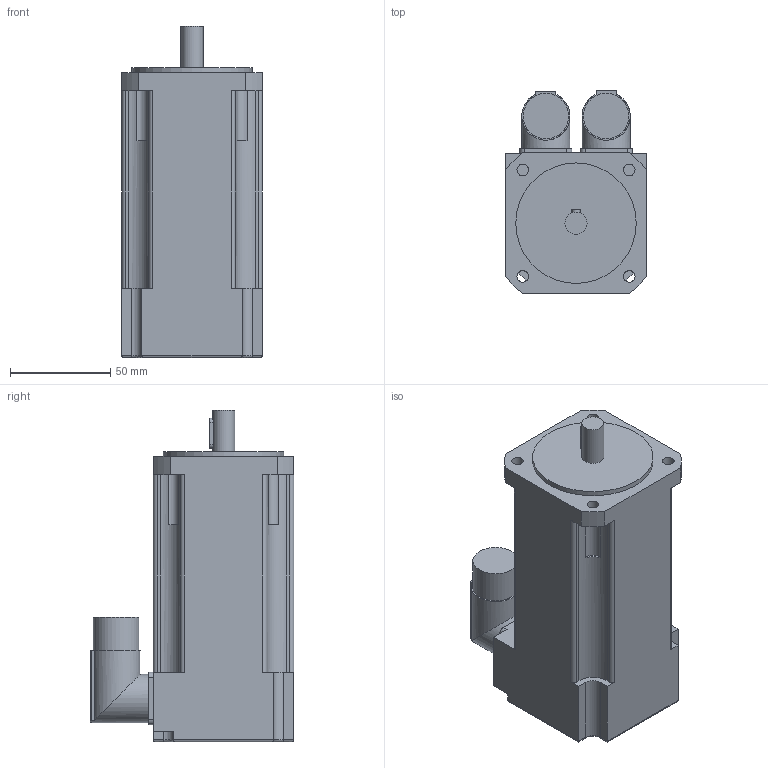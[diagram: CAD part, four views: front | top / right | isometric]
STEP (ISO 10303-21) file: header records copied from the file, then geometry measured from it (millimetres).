
FILE_DESCRIPTION(/* description */ (''),/* implementation_level */ '2;1');
FILE_NAME(/* name */ '\\Lafnas01\disegni\Archivi Lafert\3D\CAD 3D\MODELLI\Assiemi clienti\Serad\Modelli 3D Serad\B36Q\Resolver\Res Without Brake\B36E8Qxx6A052033.ipt.stp',/* time_stamp */ '2015-09-07T10:49:35+02:00',/* author */ ('Pastrello Ylenia'),/* organization */ (''),/* preprocessor_version */ 'ST-DEVELOPER v15.6',/* originating_system */ 'Autodesk Inventor 2015',/* authorisation */ '');
FILE_SCHEMA (('AUTOMOTIVE_DESIGN { 1 0 10303 214 3 1 1 }'));
Length unit declared in the file: millimetre
Products named in the file (1): B36E8Qxx6A052033
Bounding box: 70 x 101.5 x 165 mm (x, y, z)
Volume: 684272.4 mm3; surface area: 58422.1 mm2
Topology: 1 solids, 1 shells, 121 faces, 322 edges, 210 vertices
Faces by surface type: plane 59, cylinder 58, torus 4
Full cylindrical faces by diameter (mm): 5.8 x4, 11 x1, 22.7 x2, 24 x2, 60 x1
Entity records: 3806 total; most frequent: CARTESIAN_POINT 678, DIRECTION 676, ORIENTED_EDGE 624, EDGE_CURVE 312, AXIS2_PLACEMENT_3D 244, VERTEX_POINT 210, LINE 188, VECTOR 188
